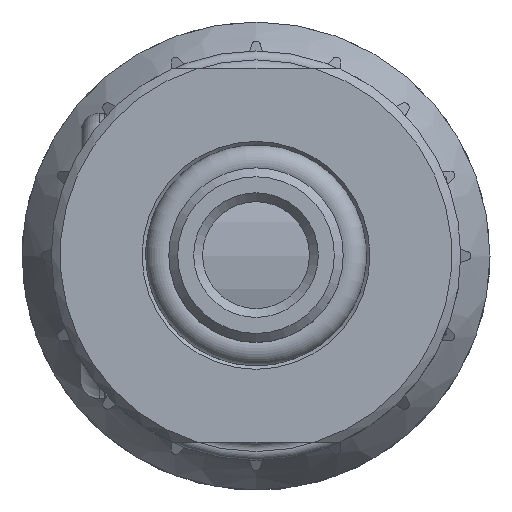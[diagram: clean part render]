
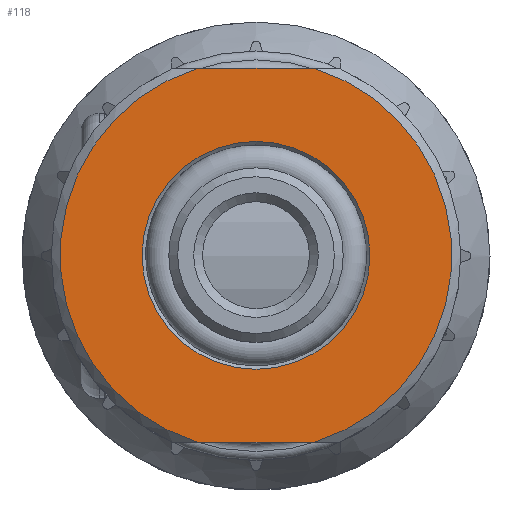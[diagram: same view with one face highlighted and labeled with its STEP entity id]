
A CAD part, top view. The second image highlights one B-rep face of the part: STEP entity #118.
In plain terms, the highlighted planar face has unit normal (0, 0, 1) as drawn and (1, 0, 0) by its records, which use the part's own axes.
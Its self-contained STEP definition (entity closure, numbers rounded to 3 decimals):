
#118 = ADVANCED_FACE( '', ( #234, #235 ), #236, .F. );
#234 = FACE_BOUND( '', #389, .T. );
#235 = FACE_OUTER_BOUND( '', #390, .T. );
#236 = PLANE( '', #391 );
#389 = EDGE_LOOP( '', ( #1122 ) );
#390 = EDGE_LOOP( '', ( #1123, #1124, #1125, #1126 ) );
#391 = AXIS2_PLACEMENT_3D( '', #1127, #1128, #1129 );
#1122 = ORIENTED_EDGE( '', *, *, #2563, .T. );
#1123 = ORIENTED_EDGE( '', *, *, #2564, .F. );
#1124 = ORIENTED_EDGE( '', *, *, #2565, .F. );
#1125 = ORIENTED_EDGE( '', *, *, #2566, .F. );
#1126 = ORIENTED_EDGE( '', *, *, #2567, .F. );
#1127 = CARTESIAN_POINT( '', ( 3.683, 0., 6.4 ) );
#1128 = DIRECTION( '', ( -1., 0., 0. ) );
#1129 = DIRECTION( '', ( 0., 0., 1. ) );
#2563 = EDGE_CURVE( '', #3968, #3968, #3969, .T. );
#2564 = EDGE_CURVE( '', #3970, #3971, #3972, .T. );
#2565 = EDGE_CURVE( '', #3973, #3970, #3974, .T. );
#2566 = EDGE_CURVE( '', #3975, #3973, #3976, .T. );
#2567 = EDGE_CURVE( '', #3971, #3975, #3977, .T. );
#3968 = VERTEX_POINT( '', #8618 );
#3969 = CIRCLE( '', #8619, 6.4 );
#3970 = VERTEX_POINT( '', #8620 );
#3971 = VERTEX_POINT( '', #8621 );
#3972 = LINE( '', #8622, #8623 );
#3973 = VERTEX_POINT( '', #8624 );
#3974 = CIRCLE( '', #8625, 11. );
#3975 = VERTEX_POINT( '', #8626 );
#3976 = LINE( '', #8627, #8628 );
#3977 = CIRCLE( '', #8629, 11. );
#8618 = CARTESIAN_POINT( '', ( 3.683, 0., 6.4 ) );
#8619 = AXIS2_PLACEMENT_3D( '', #10170, #10171, #10172 );
#8620 = CARTESIAN_POINT( '', ( 3.683, -10.5, -3.279 ) );
#8621 = CARTESIAN_POINT( '', ( 3.683, -10.5, 3.279 ) );
#8622 = CARTESIAN_POINT( '', ( 3.683, -10.5, 6.4 ) );
#8623 = VECTOR( '', #10173, 1000. );
#8624 = CARTESIAN_POINT( '', ( 3.683, 10.5, -3.279 ) );
#8625 = AXIS2_PLACEMENT_3D( '', #10174, #10175, #10176 );
#8626 = CARTESIAN_POINT( '', ( 3.683, 10.5, 3.279 ) );
#8627 = CARTESIAN_POINT( '', ( 3.683, 10.5, 6.4 ) );
#8628 = VECTOR( '', #10177, 1000. );
#8629 = AXIS2_PLACEMENT_3D( '', #10178, #10179, #10180 );
#10170 = CARTESIAN_POINT( '', ( 3.683, 0., 0. ) );
#10171 = DIRECTION( '', ( -1., 0., 0. ) );
#10172 = DIRECTION( '', ( 0., 0., 1. ) );
#10173 = DIRECTION( '', ( 0., 0., 1. ) );
#10174 = CARTESIAN_POINT( '', ( 3.683, 0., 0. ) );
#10175 = DIRECTION( '', ( -1., 0., 0. ) );
#10176 = DIRECTION( '', ( 0., 0., 1. ) );
#10177 = DIRECTION( '', ( 0., 0., -1. ) );
#10178 = CARTESIAN_POINT( '', ( 3.683, 0., 0. ) );
#10179 = DIRECTION( '', ( -1., 0., 0. ) );
#10180 = DIRECTION( '', ( 0., 0., 1. ) );
